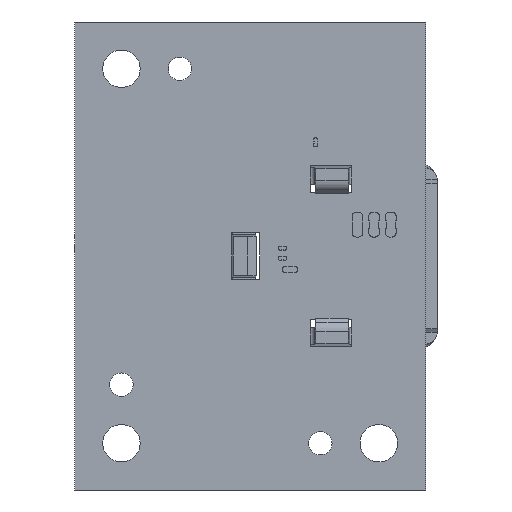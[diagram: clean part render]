
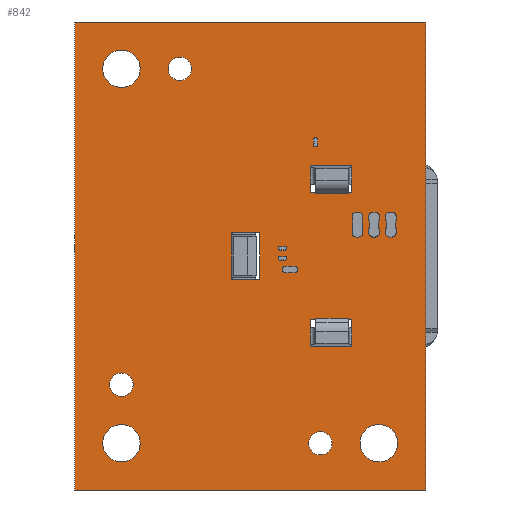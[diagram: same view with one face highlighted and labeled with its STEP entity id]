
A CAD part, front view. The second image highlights one B-rep face of the part: STEP entity #842.
In plain terms, the highlighted planar face has unit normal (0, -1, 0).
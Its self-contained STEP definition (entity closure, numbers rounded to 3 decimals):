
#36=DIRECTION('',(0.,0.,1.));
#37=VECTOR('',#36,40.);
#38=CARTESIAN_POINT('',(-15.,0.,-20.));
#39=LINE('',#38,#37);
#44=DIRECTION('',(1.,0.,0.));
#45=VECTOR('',#44,30.);
#46=CARTESIAN_POINT('',(-15.,0.,20.));
#47=LINE('',#46,#45);
#51=DIRECTION('',(0.,0.,-1.));
#52=VECTOR('',#51,40.);
#53=CARTESIAN_POINT('',(15.,0.,20.));
#54=LINE('',#53,#52);
#58=DIRECTION('',(-1.,0.,0.));
#59=VECTOR('',#58,30.);
#60=CARTESIAN_POINT('',(15.,0.,-20.));
#61=LINE('',#60,#59);
#65=CARTESIAN_POINT('',(-11.,0.,-16.));
#66=DIRECTION('',(0.,1.,0.));
#67=DIRECTION('',(0.,0.,1.));
#68=AXIS2_PLACEMENT_3D('',#65,#66,#67);
#73=CARTESIAN_POINT('',(-11.,0.,-16.));
#74=DIRECTION('',(0.,1.,0.));
#75=DIRECTION('',(0.,0.,-1.));
#76=AXIS2_PLACEMENT_3D('',#73,#74,#75);
#81=CARTESIAN_POINT('',(-11.,0.,-11.));
#82=DIRECTION('',(0.,1.,0.));
#83=DIRECTION('',(0.,0.,1.));
#84=AXIS2_PLACEMENT_3D('',#81,#82,#83);
#89=CARTESIAN_POINT('',(-11.,0.,-11.));
#90=DIRECTION('',(0.,1.,0.));
#91=DIRECTION('',(0.,0.,-1.));
#92=AXIS2_PLACEMENT_3D('',#89,#90,#91);
#97=CARTESIAN_POINT('',(-11.,0.,16.));
#98=DIRECTION('',(0.,1.,0.));
#99=DIRECTION('',(-1.,0.,0.));
#100=AXIS2_PLACEMENT_3D('',#97,#98,#99);
#105=CARTESIAN_POINT('',(-11.,0.,16.));
#106=DIRECTION('',(0.,1.,0.));
#107=DIRECTION('',(1.,0.,0.));
#108=AXIS2_PLACEMENT_3D('',#105,#106,#107);
#113=CARTESIAN_POINT('',(-6.,0.,16.));
#114=DIRECTION('',(0.,1.,0.));
#115=DIRECTION('',(-1.,0.,0.));
#116=AXIS2_PLACEMENT_3D('',#113,#114,#115);
#121=CARTESIAN_POINT('',(-6.,0.,16.));
#122=DIRECTION('',(0.,1.,0.));
#123=DIRECTION('',(1.,0.,0.));
#124=AXIS2_PLACEMENT_3D('',#121,#122,#123);
#129=CARTESIAN_POINT('',(11.,0.,-16.));
#130=DIRECTION('',(0.,1.,0.));
#131=DIRECTION('',(-1.,0.,0.));
#132=AXIS2_PLACEMENT_3D('',#129,#130,#131);
#137=CARTESIAN_POINT('',(11.,0.,-16.));
#138=DIRECTION('',(0.,1.,0.));
#139=DIRECTION('',(1.,0.,0.));
#140=AXIS2_PLACEMENT_3D('',#137,#138,#139);
#145=CARTESIAN_POINT('',(6.,0.,-16.));
#146=DIRECTION('',(0.,1.,0.));
#147=DIRECTION('',(-1.,0.,0.));
#148=AXIS2_PLACEMENT_3D('',#145,#146,#147);
#153=CARTESIAN_POINT('',(6.,0.,-16.));
#154=DIRECTION('',(0.,1.,0.));
#155=DIRECTION('',(1.,0.,0.));
#156=AXIS2_PLACEMENT_3D('',#153,#154,#155);
#161=DIRECTION('',(-1.,0.,0.));
#162=VECTOR('',#161,3.55);
#163=CARTESIAN_POINT('',(8.685,0.,-7.705));
#164=LINE('',#163,#162);
#168=DIRECTION('',(0.,0.,-1.));
#169=VECTOR('',#168,2.25);
#170=CARTESIAN_POINT('',(8.685,0.,-5.455));
#171=LINE('',#170,#169);
#175=DIRECTION('',(1.,0.,0.));
#176=VECTOR('',#175,3.55);
#177=CARTESIAN_POINT('',(5.135,0.,-5.455));
#178=LINE('',#177,#176);
#182=DIRECTION('',(0.,0.,1.));
#183=VECTOR('',#182,2.25);
#184=CARTESIAN_POINT('',(5.135,0.,-7.705));
#185=LINE('',#184,#183);
#189=DIRECTION('',(-1.,0.,0.));
#190=VECTOR('',#189,3.55);
#191=CARTESIAN_POINT('',(8.685,0.,5.455));
#192=LINE('',#191,#190);
#196=DIRECTION('',(0.,0.,-1.));
#197=VECTOR('',#196,2.25);
#198=CARTESIAN_POINT('',(8.685,0.,7.705));
#199=LINE('',#198,#197);
#203=DIRECTION('',(1.,0.,0.));
#204=VECTOR('',#203,3.55);
#205=CARTESIAN_POINT('',(5.135,0.,7.705));
#206=LINE('',#205,#204);
#210=DIRECTION('',(0.,0.,1.));
#211=VECTOR('',#210,2.25);
#212=CARTESIAN_POINT('',(5.135,0.,5.455));
#213=LINE('',#212,#211);
#217=DIRECTION('',(-1.,0.,0.));
#218=VECTOR('',#217,2.4);
#219=CARTESIAN_POINT('',(0.83,0.,-2.));
#220=LINE('',#219,#218);
#224=DIRECTION('',(0.,0.,-1.));
#225=VECTOR('',#224,4.);
#226=CARTESIAN_POINT('',(0.83,0.,2.));
#227=LINE('',#226,#225);
#231=DIRECTION('',(1.,0.,0.));
#232=VECTOR('',#231,2.4);
#233=CARTESIAN_POINT('',(-1.57,0.,2.));
#234=LINE('',#233,#232);
#238=DIRECTION('',(0.,0.,1.));
#239=VECTOR('',#238,4.);
#240=CARTESIAN_POINT('',(-1.57,0.,-2.));
#241=LINE('',#240,#239);
#649=CARTESIAN_POINT('',(-15.,0.,-20.));
#650=CARTESIAN_POINT('',(-15.,0.,20.));
#651=VERTEX_POINT('',#649);
#652=VERTEX_POINT('',#650);
#653=CARTESIAN_POINT('',(15.,0.,20.));
#654=VERTEX_POINT('',#653);
#655=CARTESIAN_POINT('',(15.,0.,-20.));
#656=VERTEX_POINT('',#655);
#665=CARTESIAN_POINT('',(-12.6,0.,16.));
#666=CARTESIAN_POINT('',(-9.4,0.,16.));
#667=VERTEX_POINT('',#665);
#668=VERTEX_POINT('',#666);
#669=CARTESIAN_POINT('',(-7.,0.,16.));
#670=CARTESIAN_POINT('',(-5.,0.,16.));
#671=VERTEX_POINT('',#669);
#672=VERTEX_POINT('',#670);
#673=CARTESIAN_POINT('',(9.4,0.,-16.));
#674=CARTESIAN_POINT('',(12.6,0.,-16.));
#675=VERTEX_POINT('',#673);
#676=VERTEX_POINT('',#674);
#677=CARTESIAN_POINT('',(5.,0.,-16.));
#678=CARTESIAN_POINT('',(7.,0.,-16.));
#679=VERTEX_POINT('',#677);
#680=VERTEX_POINT('',#678);
#697=CARTESIAN_POINT('',(-11.,0.,-14.4));
#698=CARTESIAN_POINT('',(-11.,0.,-17.6));
#699=VERTEX_POINT('',#697);
#700=VERTEX_POINT('',#698);
#701=CARTESIAN_POINT('',(-11.,0.,-10.));
#702=CARTESIAN_POINT('',(-11.,0.,-12.));
#703=VERTEX_POINT('',#701);
#704=VERTEX_POINT('',#702);
#713=CARTESIAN_POINT('',(8.685,0.,-7.705));
#714=CARTESIAN_POINT('',(5.135,0.,-7.705));
#715=VERTEX_POINT('',#713);
#716=VERTEX_POINT('',#714);
#717=CARTESIAN_POINT('',(5.135,0.,-5.455));
#718=VERTEX_POINT('',#717);
#719=CARTESIAN_POINT('',(8.685,0.,-5.455));
#720=VERTEX_POINT('',#719);
#721=CARTESIAN_POINT('',(8.685,0.,5.455));
#722=CARTESIAN_POINT('',(5.135,0.,5.455));
#723=VERTEX_POINT('',#721);
#724=VERTEX_POINT('',#722);
#725=CARTESIAN_POINT('',(5.135,0.,7.705));
#726=VERTEX_POINT('',#725);
#727=CARTESIAN_POINT('',(8.685,0.,7.705));
#728=VERTEX_POINT('',#727);
#729=CARTESIAN_POINT('',(0.83,0.,-2.));
#730=CARTESIAN_POINT('',(-1.57,0.,-2.));
#731=VERTEX_POINT('',#729);
#732=VERTEX_POINT('',#730);
#733=CARTESIAN_POINT('',(-1.57,0.,2.));
#734=VERTEX_POINT('',#733);
#735=CARTESIAN_POINT('',(0.83,0.,2.));
#736=VERTEX_POINT('',#735);
#761=CARTESIAN_POINT('',(0.,0.,0.));
#762=DIRECTION('',(0.,1.,0.));
#763=DIRECTION('',(1.,0.,0.));
#764=AXIS2_PLACEMENT_3D('',#761,#762,#763);
#765=PLANE('',#764);
#767=ORIENTED_EDGE('',*,*,#766,.T.);
#769=ORIENTED_EDGE('',*,*,#768,.T.);
#771=ORIENTED_EDGE('',*,*,#770,.T.);
#773=ORIENTED_EDGE('',*,*,#772,.T.);
#774=EDGE_LOOP('',(#767,#769,#771,#773));
#775=FACE_OUTER_BOUND('',#774,.F.);
#777=ORIENTED_EDGE('',*,*,#776,.F.);
#779=ORIENTED_EDGE('',*,*,#778,.F.);
#780=EDGE_LOOP('',(#777,#779));
#781=FACE_BOUND('',#780,.F.);
#783=ORIENTED_EDGE('',*,*,#782,.F.);
#785=ORIENTED_EDGE('',*,*,#784,.F.);
#786=EDGE_LOOP('',(#783,#785));
#787=FACE_BOUND('',#786,.F.);
#789=ORIENTED_EDGE('',*,*,#788,.F.);
#791=ORIENTED_EDGE('',*,*,#790,.F.);
#792=EDGE_LOOP('',(#789,#791));
#793=FACE_BOUND('',#792,.F.);
#795=ORIENTED_EDGE('',*,*,#794,.F.);
#797=ORIENTED_EDGE('',*,*,#796,.F.);
#798=EDGE_LOOP('',(#795,#797));
#799=FACE_BOUND('',#798,.F.);
#801=ORIENTED_EDGE('',*,*,#800,.F.);
#803=ORIENTED_EDGE('',*,*,#802,.F.);
#804=EDGE_LOOP('',(#801,#803));
#805=FACE_BOUND('',#804,.F.);
#807=ORIENTED_EDGE('',*,*,#806,.F.);
#809=ORIENTED_EDGE('',*,*,#808,.F.);
#810=EDGE_LOOP('',(#807,#809));
#811=FACE_BOUND('',#810,.F.);
#813=ORIENTED_EDGE('',*,*,#812,.F.);
#815=ORIENTED_EDGE('',*,*,#814,.F.);
#817=ORIENTED_EDGE('',*,*,#816,.F.);
#819=ORIENTED_EDGE('',*,*,#818,.F.);
#820=EDGE_LOOP('',(#813,#815,#817,#819));
#821=FACE_BOUND('',#820,.F.);
#823=ORIENTED_EDGE('',*,*,#822,.F.);
#825=ORIENTED_EDGE('',*,*,#824,.F.);
#827=ORIENTED_EDGE('',*,*,#826,.F.);
#829=ORIENTED_EDGE('',*,*,#828,.F.);
#830=EDGE_LOOP('',(#823,#825,#827,#829));
#831=FACE_BOUND('',#830,.F.);
#833=ORIENTED_EDGE('',*,*,#832,.F.);
#835=ORIENTED_EDGE('',*,*,#834,.F.);
#837=ORIENTED_EDGE('',*,*,#836,.F.);
#839=ORIENTED_EDGE('',*,*,#838,.F.);
#840=EDGE_LOOP('',(#833,#835,#837,#839));
#841=FACE_BOUND('',#840,.F.);
#69=CIRCLE('',#68,1.6);
#77=CIRCLE('',#76,1.6);
#85=CIRCLE('',#84,1.);
#93=CIRCLE('',#92,1.);
#101=CIRCLE('',#100,1.6);
#109=CIRCLE('',#108,1.6);
#117=CIRCLE('',#116,1.);
#125=CIRCLE('',#124,1.);
#133=CIRCLE('',#132,1.6);
#141=CIRCLE('',#140,1.6);
#149=CIRCLE('',#148,1.);
#157=CIRCLE('',#156,1.);
#766=EDGE_CURVE('',#651,#652,#39,.T.);
#768=EDGE_CURVE('',#652,#654,#47,.T.);
#770=EDGE_CURVE('',#654,#656,#54,.T.);
#772=EDGE_CURVE('',#656,#651,#61,.T.);
#776=EDGE_CURVE('',#699,#700,#69,.T.);
#778=EDGE_CURVE('',#700,#699,#77,.T.);
#782=EDGE_CURVE('',#703,#704,#85,.T.);
#784=EDGE_CURVE('',#704,#703,#93,.T.);
#788=EDGE_CURVE('',#667,#668,#101,.T.);
#790=EDGE_CURVE('',#668,#667,#109,.T.);
#794=EDGE_CURVE('',#671,#672,#117,.T.);
#796=EDGE_CURVE('',#672,#671,#125,.T.);
#800=EDGE_CURVE('',#675,#676,#133,.T.);
#802=EDGE_CURVE('',#676,#675,#141,.T.);
#806=EDGE_CURVE('',#679,#680,#149,.T.);
#808=EDGE_CURVE('',#680,#679,#157,.T.);
#812=EDGE_CURVE('',#715,#716,#164,.T.);
#814=EDGE_CURVE('',#720,#715,#171,.T.);
#816=EDGE_CURVE('',#718,#720,#178,.T.);
#818=EDGE_CURVE('',#716,#718,#185,.T.);
#822=EDGE_CURVE('',#723,#724,#192,.T.);
#824=EDGE_CURVE('',#728,#723,#199,.T.);
#826=EDGE_CURVE('',#726,#728,#206,.T.);
#828=EDGE_CURVE('',#724,#726,#213,.T.);
#832=EDGE_CURVE('',#731,#732,#220,.T.);
#834=EDGE_CURVE('',#736,#731,#227,.T.);
#836=EDGE_CURVE('',#734,#736,#234,.T.);
#838=EDGE_CURVE('',#732,#734,#241,.T.);
#842=ADVANCED_FACE('',(#775,#781,#787,#793,#799,#805,#811,#821,#831,#841),#765,
.F.);
